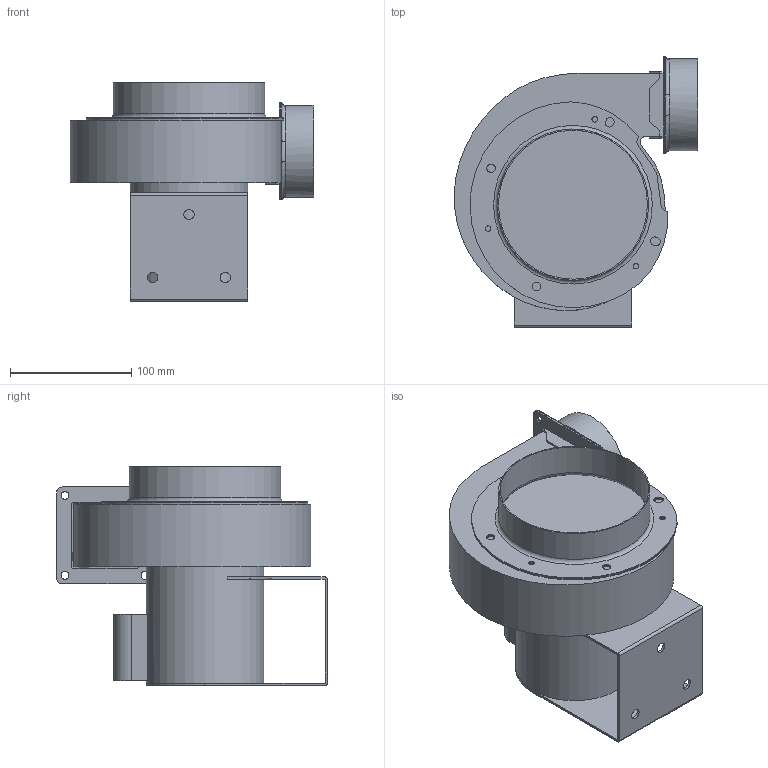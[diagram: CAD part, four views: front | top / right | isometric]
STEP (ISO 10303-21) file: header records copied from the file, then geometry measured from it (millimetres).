
FILE_DESCRIPTION(/* description */ ('Unknown'),/* implementation_level */ '2;1');
FILE_NAME(/* name */ 'CY127A2P1-V2 型錄',/* time_stamp */ '2026-03-10T17:54:28+08:00',/* author */ ('Unknown'),/* organization */ ('Unknown'),/* preprocessor_version */ 'ST-DEVELOPER v20',/* originating_system */ 'Solid Edge',/* authorisation */ 'Unknown');
FILE_SCHEMA (('AUTOMOTIVE_DESIGN {1 0 10303 214 3 1 1}'));
Length unit declared in the file: millimetre
Products named in the file (8): CY127A2P1-V2 型; CY127A-01; CY127-05; CY127-08; JM127A2P1a-V2; CY127-04; CY076##02; CY127-07
Assembly tree (7 placements, depth 2):
  CY127A2P1-V2 型
    CY127A-01
    CY127-05
    CY127-08
    JM127A2P1a-V2
    CY127-04
    CY076##02
    CY127-07
Bounding box: 200.96 x 223.7 x 180.8 mm (x, y, z)
Volume: 2333315.6 mm3; surface area: 312435.7 mm2
Topology: 7 solids, 7 shells, 205 faces, 547 edges, 360 vertices
Faces by surface type: cylinder 95, plane 90, torus 11, bspline 9
Full cylindrical faces by diameter (mm): 4.5 x6, 5 x1, 5.5 x8, 6.5 x8, 7 x4, 8 x1, 8.5 x3, 74.4 x1, 76 x1, 97 x1, 123 x1, 125 x1, 136.5 x1
Entity records: 6786 total; most frequent: CARTESIAN_POINT 1387, DIRECTION 1117, ORIENTED_EDGE 994, EDGE_CURVE 497, AXIS2_PLACEMENT_3D 426, VERTEX_POINT 350, EDGE_LOOP 323, FACE_BOUND 323
